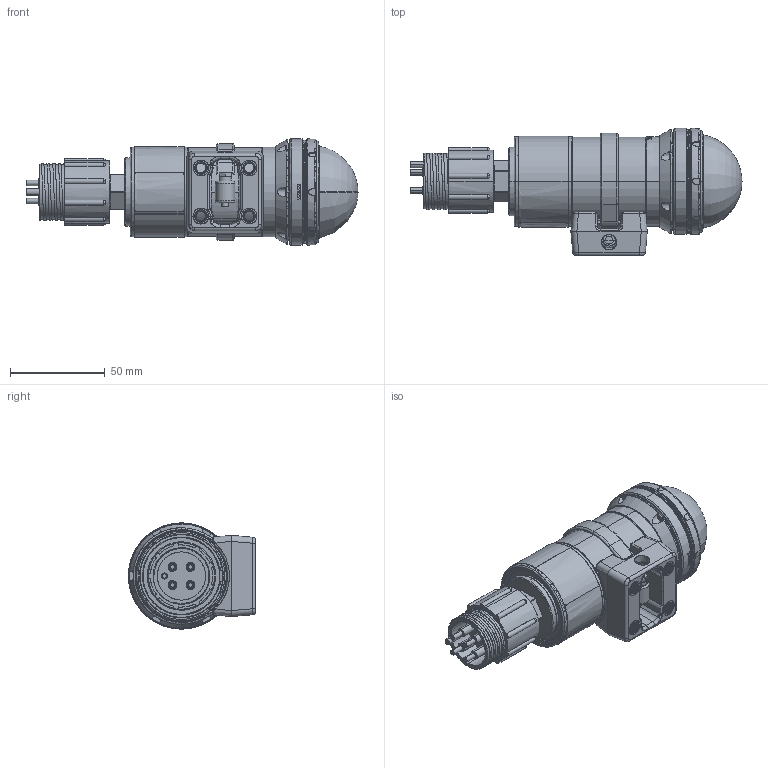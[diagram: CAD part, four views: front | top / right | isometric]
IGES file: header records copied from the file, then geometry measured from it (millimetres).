
Start section: SolidWorks IGES file using analytic representation for surfaces
Global section: file name: C:\users\hector.duran\Work Folders\Desktop\Temp\SWSC-X070-X-TI-X-SUMCBH4MS (IGES).IGS; native system: SolidWorks 2023; preprocessor: SolidWorks 2023; author: hector.duran; date: 240617.143006; units: millimetre
Bounding box: 175.22 x 67.13 x 56 mm (x, y, z)
Surface area: 53845.2 mm2 (no closed solid volume)
Topology: 0 solids, 0 shells, 740 faces, 12465 edges, 12437 vertices
Faces by surface type: revolution 418, bspline 322
